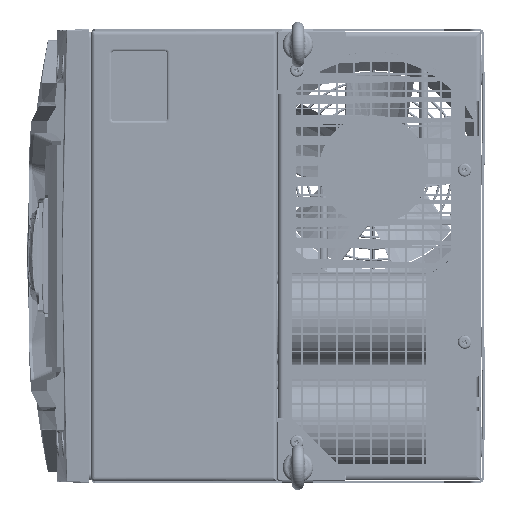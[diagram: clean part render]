
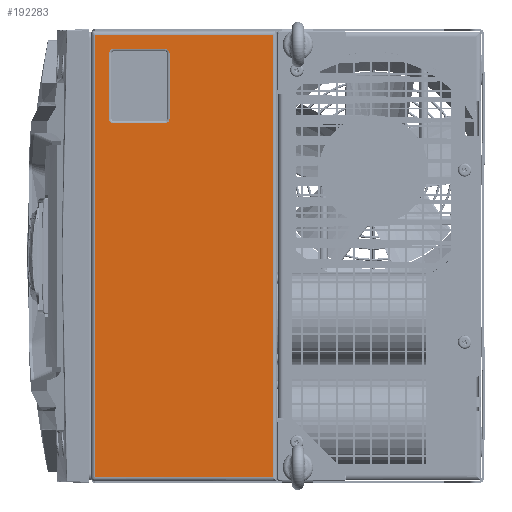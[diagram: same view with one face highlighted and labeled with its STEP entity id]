
A CAD part, left-side view. The second image highlights one B-rep face of the part: STEP entity #192283.
In plain terms, the highlighted planar face has unit normal (-1, 0, 0).
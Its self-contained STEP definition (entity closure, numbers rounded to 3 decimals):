
#1677 = CARTESIAN_POINT ( 'NONE',  ( -531.151, -35.929, -161.948 ) ) ;
#3029 = DIRECTION ( 'NONE',  ( 0., 0., 1. ) ) ;
#3328 = ORIENTED_EDGE ( 'NONE', *, *, #266286, .T. ) ;
#4696 = CARTESIAN_POINT ( 'NONE',  ( -531.151, -35.929, -158.77 ) ) ;
#9679 = CARTESIAN_POINT ( 'NONE',  ( -531.151, 1.571, -161.948 ) ) ;
#11596 = EDGE_LOOP ( 'NONE', ( #159594, #3328, #210871, #60504 ) ) ;
#13887 = VERTEX_POINT ( 'NONE', #190485 ) ;
#13941 = DIRECTION ( 'NONE',  ( 0., 0., -1. ) ) ;
#17987 = EDGE_CURVE ( 'NONE', #256718, #149037, #23311, .T. ) ;
#23311 = CIRCLE ( 'NONE', #200009, 3.177 ) ;
#23826 = FACE_BOUND ( 'NONE', #236724, .T. ) ;
#23868 = CARTESIAN_POINT ( 'NONE',  ( -531.151, 14.821, -148.698 ) ) ;
#31902 = EDGE_CURVE ( 'NONE', #52510, #211525, #48085, .T. ) ;
#34210 = CARTESIAN_POINT ( 'NONE',  ( -531.151, 14.821, -309.098 ) ) ;
#37498 = EDGE_CURVE ( 'NONE', #180282, #230798, #92837, .T. ) ;
#43870 = LINE ( 'NONE', #4696, #243720 ) ;
#48085 = LINE ( 'NONE', #23868, #152806 ) ;
#48669 = DIRECTION ( 'NONE',  ( 0., -1., 0. ) ) ;
#48797 = AXIS2_PLACEMENT_3D ( 'NONE', #166956, #81937, #230387 ) ;
#49705 = AXIS2_PLACEMENT_3D ( 'NONE', #9679, #51512, #247812 ) ;
#50013 = CARTESIAN_POINT ( 'NONE',  ( -531.151, 14.821, -469.498 ) ) ;
#51512 = DIRECTION ( 'NONE',  ( 1., 0., 0. ) ) ;
#52510 = VERTEX_POINT ( 'NONE', #76327 ) ;
#60504 = ORIENTED_EDGE ( 'NONE', *, *, #77017, .T. ) ;
#60961 = EDGE_CURVE ( 'NONE', #230798, #208548, #153028, .T. ) ;
#65667 = CIRCLE ( 'NONE', #242412, 3.177 ) ;
#66635 = LINE ( 'NONE', #208396, #96984 ) ;
#66850 = CARTESIAN_POINT ( 'NONE',  ( -531.151, -114.179, -469.498 ) ) ;
#70281 = EDGE_CURVE ( 'NONE', #13887, #180282, #75963, .T. ) ;
#75506 = EDGE_CURVE ( 'NONE', #149037, #264937, #66635, .T. ) ;
#75963 = CIRCLE ( 'NONE', #110444, 3.177 ) ;
#76327 = CARTESIAN_POINT ( 'NONE',  ( -531.151, 14.821, -148.698 ) ) ;
#77017 = EDGE_CURVE ( 'NONE', #52510, #108258, #198900, .T. ) ;
#77163 = DIRECTION ( 'NONE',  ( 0., 0., 1. ) ) ;
#81937 = DIRECTION ( 'NONE',  ( -1., 0., 0. ) ) ;
#83272 = DIRECTION ( 'NONE',  ( 0., 0., 1. ) ) ;
#88707 = VERTEX_POINT ( 'NONE', #113376 ) ;
#92837 = LINE ( 'NONE', #261587, #108695 ) ;
#96984 = VECTOR ( 'NONE', #147650, 1000. ) ;
#98106 = LINE ( 'NONE', #239921, #177206 ) ;
#106208 = DIRECTION ( 'NONE',  ( 0., -1., 0. ) ) ;
#108018 = EDGE_CURVE ( 'NONE', #264937, #88707, #65667, .T. ) ;
#108258 = VERTEX_POINT ( 'NONE', #180931 ) ;
#108695 = VECTOR ( 'NONE', #250308, 1000. ) ;
#108805 = PLANE ( 'NONE',  #48797 ) ;
#109360 = CARTESIAN_POINT ( 'NONE',  ( -531.151, -35.929, -158.77 ) ) ;
#110444 = AXIS2_PLACEMENT_3D ( 'NONE', #159534, #262181, #77163 ) ;
#113376 = CARTESIAN_POINT ( 'NONE',  ( -531.151, -35.929, -212.625 ) ) ;
#125543 = ORIENTED_EDGE ( 'NONE', *, *, #70281, .T. ) ;
#126388 = ORIENTED_EDGE ( 'NONE', *, *, #264881, .T. ) ;
#127599 = LINE ( 'NONE', #66850, #179294 ) ;
#142733 = CARTESIAN_POINT ( 'NONE',  ( -531.151, -35.929, -209.448 ) ) ;
#147650 = DIRECTION ( 'NONE',  ( 0., 0., -1. ) ) ;
#149037 = VERTEX_POINT ( 'NONE', #197476 ) ;
#152806 = VECTOR ( 'NONE', #106208, 1000. ) ;
#153028 = CIRCLE ( 'NONE', #49705, 3.177 ) ;
#157976 = LINE ( 'NONE', #50013, #165252 ) ;
#159534 = CARTESIAN_POINT ( 'NONE',  ( -531.151, 1.571, -209.448 ) ) ;
#159594 = ORIENTED_EDGE ( 'NONE', *, *, #206944, .T. ) ;
#164404 = ORIENTED_EDGE ( 'NONE', *, *, #188723, .T. ) ;
#165252 = VECTOR ( 'NONE', #48669, 1000. ) ;
#165604 = FACE_OUTER_BOUND ( 'NONE', #11596, .T. ) ;
#166956 = CARTESIAN_POINT ( 'NONE',  ( -531.151, 17.821, -605.907 ) ) ;
#167797 = ORIENTED_EDGE ( 'NONE', *, *, #37498, .T. ) ;
#173489 = VECTOR ( 'NONE', #13941, 1000. ) ;
#174410 = ORIENTED_EDGE ( 'NONE', *, *, #75506, .T. ) ;
#177206 = VECTOR ( 'NONE', #258850, 1000. ) ;
#179294 = VECTOR ( 'NONE', #184733, 1000. ) ;
#180282 = VERTEX_POINT ( 'NONE', #238483 ) ;
#180931 = CARTESIAN_POINT ( 'NONE',  ( -531.151, 14.821, -469.498 ) ) ;
#184733 = DIRECTION ( 'NONE',  ( 0., 0., 1. ) ) ;
#186641 = DIRECTION ( 'NONE',  ( 1., 0., 0. ) ) ;
#188723 = EDGE_CURVE ( 'NONE', #88707, #13887, #98106, .T. ) ;
#189116 = CARTESIAN_POINT ( 'NONE',  ( -531.151, 1.571, -158.77 ) ) ;
#190485 = CARTESIAN_POINT ( 'NONE',  ( -531.151, 1.571, -212.625 ) ) ;
#192283 = ADVANCED_FACE ( 'NONE', ( #23826, #165604 ), #108805, .T. ) ;
#194247 = ORIENTED_EDGE ( 'NONE', *, *, #17987, .T. ) ;
#197476 = CARTESIAN_POINT ( 'NONE',  ( -531.151, -39.106, -161.948 ) ) ;
#198900 = LINE ( 'NONE', #34210, #173489 ) ;
#200009 = AXIS2_PLACEMENT_3D ( 'NONE', #1677, #186641, #3029 ) ;
#200347 = VERTEX_POINT ( 'NONE', #254800 ) ;
#203473 = DIRECTION ( 'NONE',  ( 1., 0., 0. ) ) ;
#206944 = EDGE_CURVE ( 'NONE', #108258, #200347, #157976, .T. ) ;
#208396 = CARTESIAN_POINT ( 'NONE',  ( -531.151, -39.106, -209.448 ) ) ;
#208548 = VERTEX_POINT ( 'NONE', #189116 ) ;
#210871 = ORIENTED_EDGE ( 'NONE', *, *, #31902, .F. ) ;
#211525 = VERTEX_POINT ( 'NONE', #219836 ) ;
#212550 = CARTESIAN_POINT ( 'NONE',  ( -531.151, -39.106, -209.448 ) ) ;
#219836 = CARTESIAN_POINT ( 'NONE',  ( -531.151, -114.179, -148.698 ) ) ;
#227328 = CARTESIAN_POINT ( 'NONE',  ( -531.151, 4.748, -161.948 ) ) ;
#230387 = DIRECTION ( 'NONE',  ( 0., 0., 1. ) ) ;
#230798 = VERTEX_POINT ( 'NONE', #227328 ) ;
#232861 = DIRECTION ( 'NONE',  ( 0., -1., 0. ) ) ;
#236724 = EDGE_LOOP ( 'NONE', ( #167797, #258053, #126388, #194247, #174410, #244966, #164404, #125543 ) ) ;
#238483 = CARTESIAN_POINT ( 'NONE',  ( -531.151, 4.748, -209.448 ) ) ;
#239921 = CARTESIAN_POINT ( 'NONE',  ( -531.151, 1.571, -212.625 ) ) ;
#242412 = AXIS2_PLACEMENT_3D ( 'NONE', #142733, #203473, #83272 ) ;
#243720 = VECTOR ( 'NONE', #232861, 1000. ) ;
#244966 = ORIENTED_EDGE ( 'NONE', *, *, #108018, .T. ) ;
#247812 = DIRECTION ( 'NONE',  ( 0., 0., 1. ) ) ;
#250308 = DIRECTION ( 'NONE',  ( 0., 0., 1. ) ) ;
#254800 = CARTESIAN_POINT ( 'NONE',  ( -531.151, -114.179, -469.498 ) ) ;
#256718 = VERTEX_POINT ( 'NONE', #109360 ) ;
#258053 = ORIENTED_EDGE ( 'NONE', *, *, #60961, .T. ) ;
#258850 = DIRECTION ( 'NONE',  ( 0., 1., 0. ) ) ;
#261587 = CARTESIAN_POINT ( 'NONE',  ( -531.151, 4.748, -161.948 ) ) ;
#262181 = DIRECTION ( 'NONE',  ( 1., 0., 0. ) ) ;
#264881 = EDGE_CURVE ( 'NONE', #208548, #256718, #43870, .T. ) ;
#264937 = VERTEX_POINT ( 'NONE', #212550 ) ;
#266286 = EDGE_CURVE ( 'NONE', #200347, #211525, #127599, .T. ) ;
